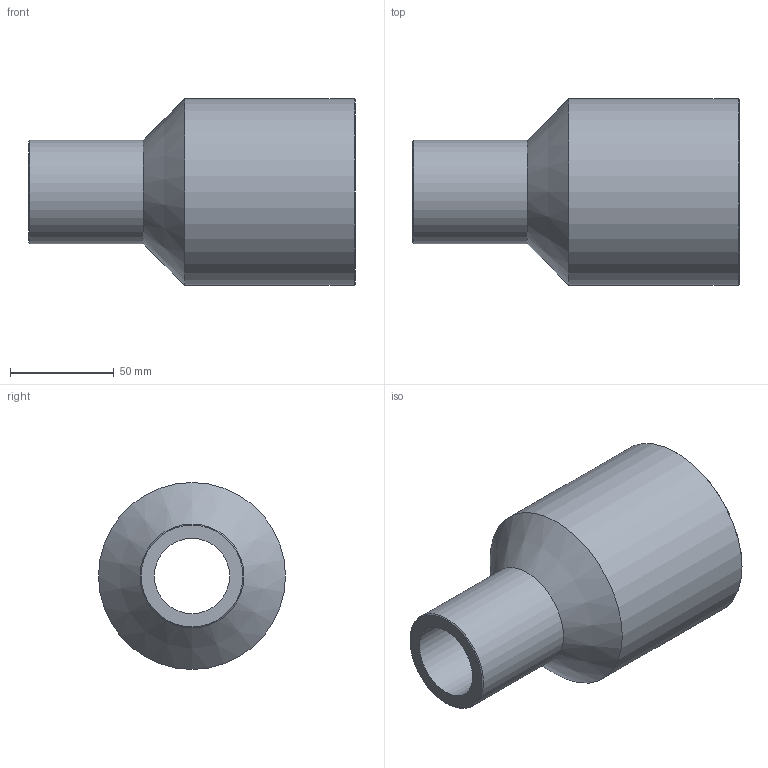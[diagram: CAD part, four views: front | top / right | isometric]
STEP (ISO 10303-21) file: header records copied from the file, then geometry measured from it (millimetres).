
FILE_DESCRIPTION(/* description */ ('Unknown'),/* implementation_level */ '2;1');
FILE_NAME(/* name */ 'RP090050H',/* time_stamp */ '2021-09-16T11:48:39+02:00',/* author */ ('Unknown'),/* organization */ ('Unknown'),/* preprocessor_version */ 'ST-DEVELOPER v16.7',/* originating_system */ 'Solid Edge',/* authorisation */ 'Unknown');
FILE_SCHEMA (('AUTOMOTIVE_DESIGN {1 0 10303 214 3 1 1}'));
Length unit declared in the file: millimetre
Products named in the file (1): RP090050H
Bounding box: 157 x 90 x 90 mm (x, y, z)
Volume: 347039 mm3; surface area: 68340.5 mm2
Topology: 1 solids, 1 shells, 10 faces, 19 edges, 11 vertices
Faces by surface type: cylinder 4, cone 4, plane 2
Full cylindrical faces by diameter (mm): 36.2 x1, 50 x1, 65.4 x1, 90 x1
Entity records: 238 total; most frequent: DIRECTION 42, CARTESIAN_POINT 31, AXIS2_PLACEMENT_3D 21, ORIENTED_EDGE 20, EDGE_LOOP 20, FACE_BOUND 20, EDGE_CURVE 10, VERTEX_POINT 10
